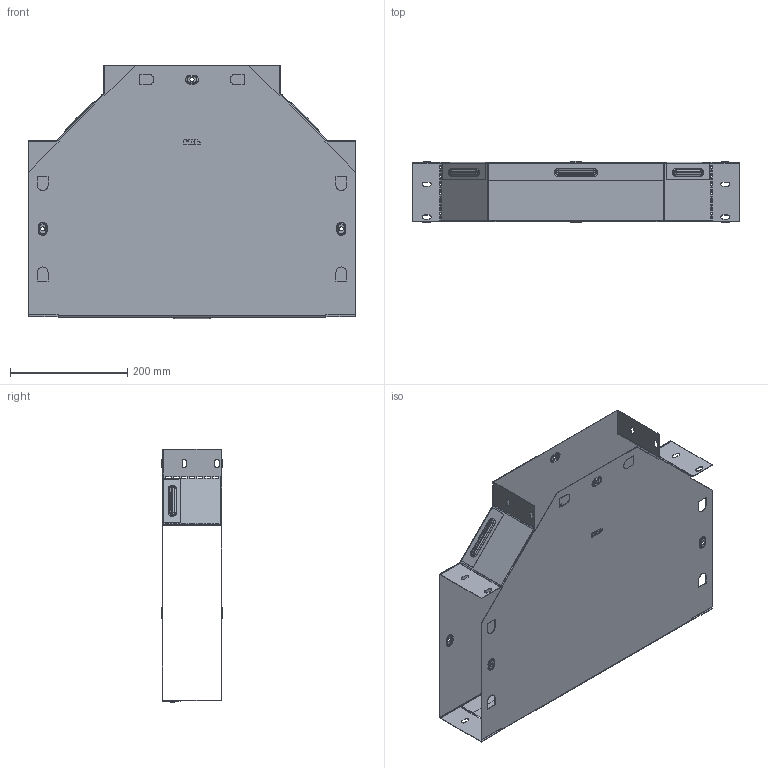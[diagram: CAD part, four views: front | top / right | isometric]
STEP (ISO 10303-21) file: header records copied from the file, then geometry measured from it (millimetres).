
FILE_DESCRIPTION (( 'STEP AP214' ), '1' );
FILE_NAME ('t10030008_捘.STEP', '2019-06-10T08:08:20', ( '砐錪賧瘔蠈錪 Windows' ), ( '' ), 'SwSTEP 2.0', 'SolidWorks 2018', '' );
FILE_SCHEMA (( 'AUTOMOTIVE_DESIGN' ));
Length unit declared in the file: millimetre
Products named in the file (1): t10030008_捘
Bounding box: 556.4 x 103.8 x 431 mm (x, y, z)
Volume: 422534.3 mm3; surface area: 1062069.7 mm2
Topology: 2 solids, 2 shells, 806 faces, 2358 edges, 1536 vertices
Faces by surface type: plane 460, cylinder 232, torus 96, bspline 18
Entity records: 27867 total; most frequent: CARTESIAN_POINT 5781, ORIENTED_EDGE 4716, DIRECTION 4508, EDGE_CURVE 2358, LINE 1714, VECTOR 1714, VERTEX_POINT 1536, AXIS2_PLACEMENT_3D 1397
